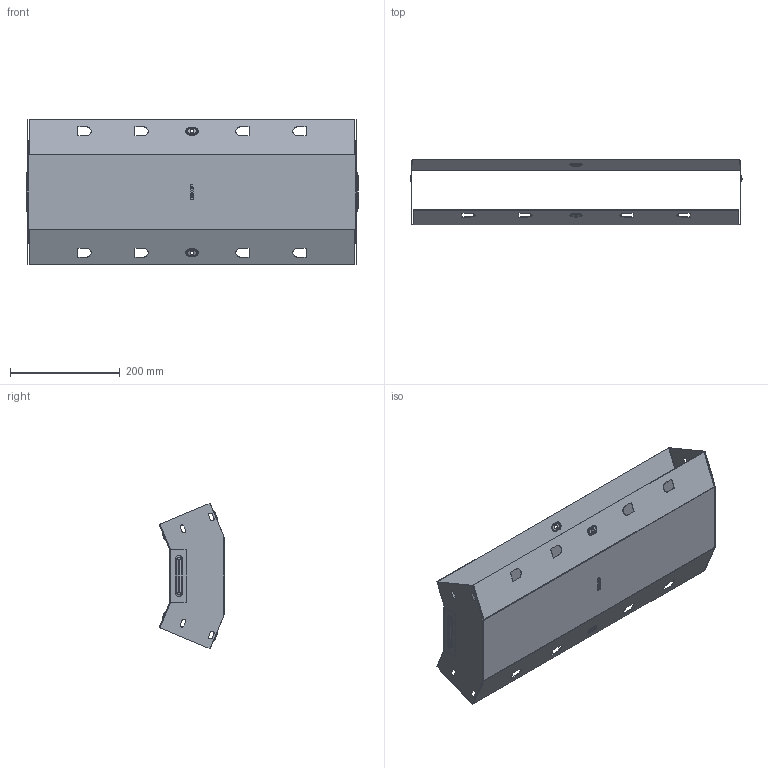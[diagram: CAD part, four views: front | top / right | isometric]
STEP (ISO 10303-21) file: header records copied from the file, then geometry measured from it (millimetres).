
FILE_DESCRIPTION (( 'STEP AP214' ), '1' );
FILE_NAME ('vi45100600_捘.STEP', '2019-06-10T08:29:46', ( '砐錪賧瘔蠈錪 Windows' ), ( '' ), 'SwSTEP 2.0', 'SolidWorks 2018', '' );
FILE_SCHEMA (( 'AUTOMOTIVE_DESIGN' ));
Length unit declared in the file: millimetre
Products named in the file (1): vi45100600_捘
Bounding box: 605.6 x 119.93 x 265.55 mm (x, y, z)
Volume: 264540.3 mm3; surface area: 665556.2 mm2
Topology: 2 solids, 2 shells, 468 faces, 1212 edges, 776 vertices
Faces by surface type: plane 254, cylinder 132, torus 64, bspline 18
Entity records: 15224 total; most frequent: CARTESIAN_POINT 3476, DIRECTION 2438, ORIENTED_EDGE 2424, EDGE_CURVE 1212, LINE 816, VECTOR 816, AXIS2_PLACEMENT_3D 811, VERTEX_POINT 776
